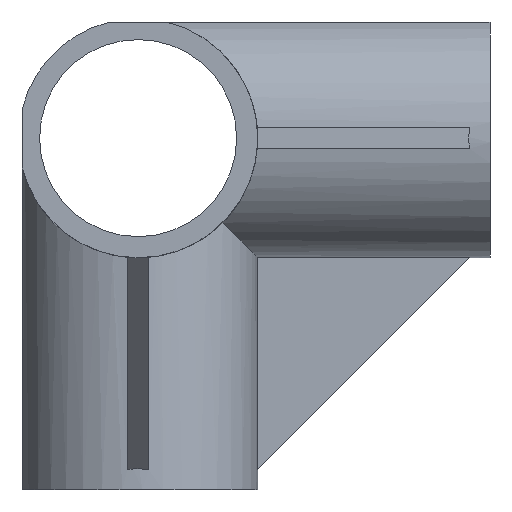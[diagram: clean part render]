
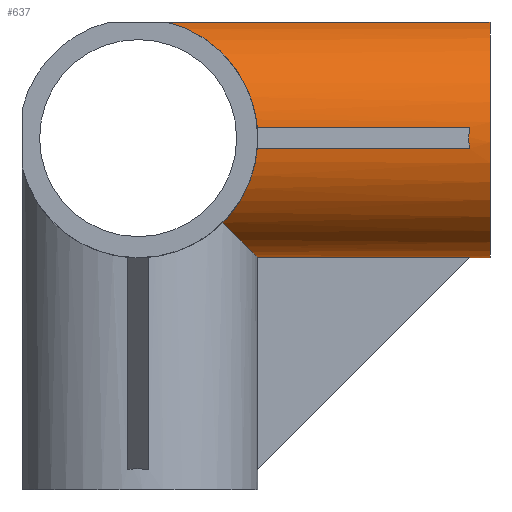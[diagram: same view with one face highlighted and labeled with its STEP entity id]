
A CAD part, front view. The second image highlights one B-rep face of the part: STEP entity #637.
In plain terms, the highlighted cylindrical face has radius 17 mm (diameter 34 mm), a partial arc.
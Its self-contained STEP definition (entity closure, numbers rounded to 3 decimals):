
#5 = CARTESIAN_POINT ( 'NONE',  ( 47.066, -16.934, -1.5 ) ) ;
#9 = VERTEX_POINT ( 'NONE', #807 ) ;
#14 = CARTESIAN_POINT ( 'NONE',  ( 16.578, -16.578, -5.516 ) ) ;
#22 = CARTESIAN_POINT ( 'NONE',  ( 47., 0., -17. ) ) ;
#27 = VERTEX_POINT ( 'NONE', #457 ) ;
#31 = EDGE_CURVE ( 'NONE', #1168, #591, #721, .T. ) ;
#41 = DIRECTION ( 'NONE',  ( 1., 0., 0. ) ) ;
#88 = VERTEX_POINT ( 'NONE', #1076 ) ;
#92 = CARTESIAN_POINT ( 'NONE',  ( 16.578, -5.516, -16.578 ) ) ;
#101 = EDGE_CURVE ( 'NONE', #330, #9, #157, .T. ) ;
#109 = CARTESIAN_POINT ( 'NONE',  ( 14.872, -14.872, -9.17 ) ) ;
#139 = DIRECTION ( 'NONE',  ( 1., 0., 0. ) ) ;
#146 = VERTEX_POINT ( 'NONE', #1144 ) ;
#147 = CARTESIAN_POINT ( 'NONE',  ( 47.066, -16.934, -1.5 ) ) ;
#151 = CARTESIAN_POINT ( 'NONE',  ( -17.001, -16.934, 1.5 ) ) ;
#157 =( BOUNDED_CURVE ( )  B_SPLINE_CURVE ( 3, ( #1207, #475, #1027, #852 ),
 .UNSPECIFIED., .F., .T. ) 
 B_SPLINE_CURVE_WITH_KNOTS ( ( 4, 4 ),
 ( 4.956, 6.195 ),
 .UNSPECIFIED. ) 
 CURVE ( )  GEOMETRIC_REPRESENTATION_ITEM ( )  RATIONAL_B_SPLINE_CURVE ( ( 1., 0.876, 0.876, 1. ) ) 
 REPRESENTATION_ITEM ( '' )  );
#172 = CARTESIAN_POINT ( 'NONE',  ( 14.872, -9.17, -14.872 ) ) ;
#178 = ORIENTED_EDGE ( 'NONE', *, *, #358, .F. ) ;
#183 = ORIENTED_EDGE ( 'NONE', *, *, #1200, .T. ) ;
#196 = CARTESIAN_POINT ( 'NONE',  ( -17.001, 0., 0. ) ) ;
#224 = ORIENTED_EDGE ( 'NONE', *, *, #785, .T. ) ;
#236 = EDGE_LOOP ( 'NONE', ( #875, #532, #880, #698, #874, #224, #881, #178, #183, #504, #302 ) ) ;
#246 = VERTEX_POINT ( 'NONE', #780 ) ;
#295 = VECTOR ( 'NONE', #585, 1000. ) ;
#301 = VECTOR ( 'NONE', #370, 1000. ) ;
#302 = ORIENTED_EDGE ( 'NONE', *, *, #761, .T. ) ;
#303 = DIRECTION ( 'NONE',  ( 1., 0., 0. ) ) ;
#330 = VERTEX_POINT ( 'NONE', #356 ) ;
#345 = CARTESIAN_POINT ( 'NONE',  ( 50., 0., -17. ) ) ;
#356 = CARTESIAN_POINT ( 'NONE',  ( 4.093, -4.093, 16.5 ) ) ;
#358 = EDGE_CURVE ( 'NONE', #246, #631, #622, .T. ) ;
#364 = CARTESIAN_POINT ( 'NONE',  ( 46.978, -17.022, -0.501 ) ) ;
#370 = DIRECTION ( 'NONE',  ( -1., 0., 0. ) ) ;
#390 = LINE ( 'NONE', #569, #301 ) ;
#396 = CARTESIAN_POINT ( 'NONE',  ( 16.934, -1.5, -16.934 ) ) ;
#416 = EDGE_CURVE ( 'NONE', #88, #591, #974, .T. ) ;
#442 = DIRECTION ( 'NONE',  ( 1., 0., 0. ) ) ;
#446 = DIRECTION ( 'NONE',  ( 1., 0., 0. ) ) ;
#457 = CARTESIAN_POINT ( 'NONE',  ( 47.066, -16.934, 1.5 ) ) ;
#467 = CARTESIAN_POINT ( 'NONE',  ( 47., 0., -17. ) ) ;
#471 =( BOUNDED_CURVE ( )  B_SPLINE_CURVE ( 3, ( #953, #14, #109, #1145 ),
 .UNSPECIFIED., .F., .T. ) 
 B_SPLINE_CURVE_WITH_KNOTS ( ( 4, 4 ),
 ( 0.088, 0.785 ),
 .UNSPECIFIED. ) 
 CURVE ( )  GEOMETRIC_REPRESENTATION_ITEM ( )  RATIONAL_B_SPLINE_CURVE ( ( 1., 0.96, 0.96, 1. ) ) 
 REPRESENTATION_ITEM ( '' )  );
#475 = CARTESIAN_POINT ( 'NONE',  ( 11.385, -11.385, 14.691 ) ) ;
#504 = ORIENTED_EDGE ( 'NONE', *, *, #688, .F. ) ;
#532 = ORIENTED_EDGE ( 'NONE', *, *, #31, .T. ) ;
#539 = EDGE_CURVE ( 'NONE', #146, #1168, #1124, .T. ) ;
#552 = EDGE_CURVE ( 'NONE', #27, #631, #838, .T. ) ;
#569 = CARTESIAN_POINT ( 'NONE',  ( -17.001, -4.093, 16.5 ) ) ;
#585 = DIRECTION ( 'NONE',  ( 1., 0., 0. ) ) ;
#591 = VERTEX_POINT ( 'NONE', #345 ) ;
#612 = CARTESIAN_POINT ( 'NONE',  ( 12.021, -12.021, -12.021 ) ) ;
#622 = LINE ( 'NONE', #1049, #295 ) ;
#627 =( BOUNDED_CURVE ( )  B_SPLINE_CURVE ( 3, ( #753, #92, #172, #1031 ),
 .UNSPECIFIED., .F., .T. ) 
 B_SPLINE_CURVE_WITH_KNOTS ( ( 4, 4 ),
 ( 0.088, 0.785 ),
 .UNSPECIFIED. ) 
 CURVE ( )  GEOMETRIC_REPRESENTATION_ITEM ( )  RATIONAL_B_SPLINE_CURVE ( ( 1., 0.96, 0.96, 1. ) ) 
 REPRESENTATION_ITEM ( '' )  );
#631 = VERTEX_POINT ( 'NONE', #5 ) ;
#633 = CARTESIAN_POINT ( 'NONE',  ( 47.022, -1.001, -16.978 ) ) ;
#637 = ADVANCED_FACE ( 'NONE', ( #1134 ), #1109, .T. ) ;
#644 = CARTESIAN_POINT ( 'NONE',  ( 46.978, -17.022, 0.501 ) ) ;
#653 = VECTOR ( 'NONE', #442, 1000. ) ;
#663 = DIRECTION ( 'NONE',  ( 0., 0., -1. ) ) ;
#688 = EDGE_CURVE ( 'NONE', #1129, #914, #627, .T. ) ;
#698 = ORIENTED_EDGE ( 'NONE', *, *, #1088, .T. ) ;
#702 = LINE ( 'NONE', #717, #1197 ) ;
#717 = CARTESIAN_POINT ( 'NONE',  ( -17.001, -1.5, -16.934 ) ) ;
#721 = LINE ( 'NONE', #826, #653 ) ;
#725 = AXIS2_PLACEMENT_3D ( 'NONE', #1182, #41, #798 ) ;
#753 = CARTESIAN_POINT ( 'NONE',  ( 16.934, -1.5, -16.934 ) ) ;
#761 = EDGE_CURVE ( 'NONE', #1129, #146, #702, .T. ) ;
#780 = CARTESIAN_POINT ( 'NONE',  ( 16.934, -16.934, -1.5 ) ) ;
#785 = EDGE_CURVE ( 'NONE', #9, #27, #987, .T. ) ;
#798 = DIRECTION ( 'NONE',  ( 0., 0., -1. ) ) ;
#807 = CARTESIAN_POINT ( 'NONE',  ( 16.934, -16.934, 1.5 ) ) ;
#826 = CARTESIAN_POINT ( 'NONE',  ( -17.001, 0., -17. ) ) ;
#838 =( BOUNDED_CURVE ( )  B_SPLINE_CURVE ( 3, ( #1195, #644, #364, #147 ),
 .UNSPECIFIED., .F., .F. ) 
 B_SPLINE_CURVE_WITH_KNOTS ( ( 4, 4 ),
 ( 3.053, 3.23 ),
 .UNSPECIFIED. ) 
 CURVE ( )  GEOMETRIC_REPRESENTATION_ITEM ( )  RATIONAL_B_SPLINE_CURVE ( ( 1., 0.997, 0.997, 1. ) ) 
 REPRESENTATION_ITEM ( '' )  );
#852 = CARTESIAN_POINT ( 'NONE',  ( 16.934, -16.934, 1.5 ) ) ;
#874 = ORIENTED_EDGE ( 'NONE', *, *, #101, .T. ) ;
#875 = ORIENTED_EDGE ( 'NONE', *, *, #539, .T. ) ;
#880 = ORIENTED_EDGE ( 'NONE', *, *, #416, .F. ) ;
#881 = ORIENTED_EDGE ( 'NONE', *, *, #552, .T. ) ;
#899 = CARTESIAN_POINT ( 'NONE',  ( 47.066, -1.5, -16.934 ) ) ;
#914 = VERTEX_POINT ( 'NONE', #612 ) ;
#919 = VECTOR ( 'NONE', #139, 1000. ) ;
#953 = CARTESIAN_POINT ( 'NONE',  ( 16.934, -16.934, -1.5 ) ) ;
#974 = CIRCLE ( 'NONE', #725, 17. ) ;
#987 = LINE ( 'NONE', #151, #919 ) ;
#1027 = CARTESIAN_POINT ( 'NONE',  ( 16.271, -16.271, 8.984 ) ) ;
#1031 = CARTESIAN_POINT ( 'NONE',  ( 12.021, -12.021, -12.021 ) ) ;
#1049 = CARTESIAN_POINT ( 'NONE',  ( -17.001, -16.934, -1.5 ) ) ;
#1056 = AXIS2_PLACEMENT_3D ( 'NONE', #196, #303, #663 ) ;
#1076 = CARTESIAN_POINT ( 'NONE',  ( 50., -4.093, 16.5 ) ) ;
#1088 = EDGE_CURVE ( 'NONE', #88, #330, #390, .T. ) ;
#1109 = CYLINDRICAL_SURFACE ( 'NONE', #1056, 17. ) ;
#1124 =( BOUNDED_CURVE ( )  B_SPLINE_CURVE ( 3, ( #899, #633, #1189, #467 ),
 .UNSPECIFIED., .F., .T. ) 
 B_SPLINE_CURVE_WITH_KNOTS ( ( 4, 4 ),
 ( 3.053, 3.142 ),
 .UNSPECIFIED. ) 
 CURVE ( )  GEOMETRIC_REPRESENTATION_ITEM ( )  RATIONAL_B_SPLINE_CURVE ( ( 1., 0.999, 0.999, 1. ) ) 
 REPRESENTATION_ITEM ( '' )  );
#1129 = VERTEX_POINT ( 'NONE', #396 ) ;
#1134 = FACE_OUTER_BOUND ( 'NONE', #236, .T. ) ;
#1144 = CARTESIAN_POINT ( 'NONE',  ( 47.066, -1.5, -16.934 ) ) ;
#1145 = CARTESIAN_POINT ( 'NONE',  ( 12.021, -12.021, -12.021 ) ) ;
#1168 = VERTEX_POINT ( 'NONE', #22 ) ;
#1182 = CARTESIAN_POINT ( 'NONE',  ( 50., 0., 0. ) ) ;
#1189 = CARTESIAN_POINT ( 'NONE',  ( 47., -0.501, -17. ) ) ;
#1195 = CARTESIAN_POINT ( 'NONE',  ( 47.066, -16.934, 1.5 ) ) ;
#1197 = VECTOR ( 'NONE', #446, 1000. ) ;
#1200 = EDGE_CURVE ( 'NONE', #246, #914, #471, .T. ) ;
#1207 = CARTESIAN_POINT ( 'NONE',  ( 4.093, -4.093, 16.5 ) ) ;
